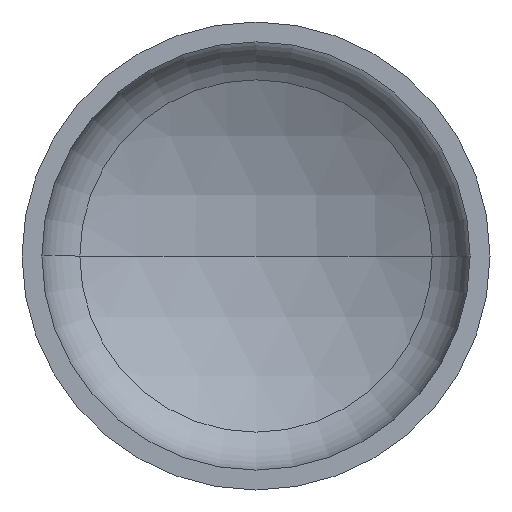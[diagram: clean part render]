
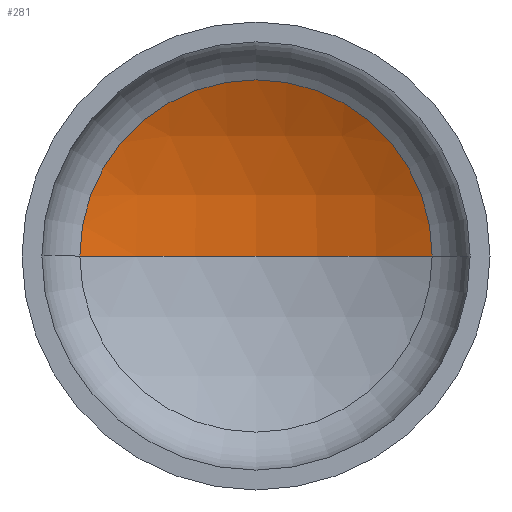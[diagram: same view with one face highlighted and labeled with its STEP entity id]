
A CAD part, front view. The second image highlights one B-rep face of the part: STEP entity #281.
In plain terms, the highlighted spherical face has radius 1280 mm.
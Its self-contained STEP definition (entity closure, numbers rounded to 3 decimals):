
#5 = AXIS2_PLACEMENT_3D ( 'NONE', #396, #160, #97 ) ;
#17 = AXIS2_PLACEMENT_3D ( 'NONE', #404, #249, #267 ) ;
#19 = AXIS2_PLACEMENT_3D ( 'NONE', #226, #171, #28 ) ;
#22 = AXIS2_PLACEMENT_3D ( 'NONE', #181, #183, #191 ) ;
#28 = DIRECTION ( 'NONE',  ( -1., 0., 0. ) ) ;
#46 = SPHERICAL_SURFACE ( 'NONE', #5, 1280. ) ;
#69 = EDGE_CURVE ( 'NONE', #145, #70, #218, .T. ) ;
#70 = VERTEX_POINT ( 'NONE', #326 ) ;
#73 = EDGE_CURVE ( 'NONE', #132, #145, #387, .T. ) ;
#74 = EDGE_CURVE ( 'NONE', #132, #70, #264, .T. ) ;
#97 = DIRECTION ( 'NONE',  ( -1., 0., 0. ) ) ;
#114 = ORIENTED_EDGE ( 'NONE', *, *, #69, .T. ) ;
#126 = EDGE_LOOP ( 'NONE', ( #169, #406, #114 ) ) ;
#132 = VERTEX_POINT ( 'NONE', #196 ) ;
#145 = VERTEX_POINT ( 'NONE', #201 ) ;
#160 = DIRECTION ( 'NONE',  ( 0., 0., -1. ) ) ;
#169 = ORIENTED_EDGE ( 'NONE', *, *, #74, .F. ) ;
#171 = DIRECTION ( 'NONE',  ( 0., 0., -1. ) ) ;
#181 = CARTESIAN_POINT ( 'NONE',  ( 0., 336.184, 0. ) ) ;
#183 = DIRECTION ( 'NONE',  ( 0., -1., 0. ) ) ;
#191 = DIRECTION ( 'NONE',  ( 1., 0., 0. ) ) ;
#196 = CARTESIAN_POINT ( 'NONE',  ( 0., 486.733, 0. ) ) ;
#201 = CARTESIAN_POINT ( 'NONE',  ( 602.28, 336.184, 0. ) ) ;
#218 = CIRCLE ( 'NONE', #22, 602.28 ) ;
#226 = CARTESIAN_POINT ( 'NONE',  ( 0., -793.267, 0. ) ) ;
#249 = DIRECTION ( 'NONE',  ( 0., 0., 1. ) ) ;
#264 = CIRCLE ( 'NONE', #17, 1280. ) ;
#267 = DIRECTION ( 'NONE',  ( 1., 0., 0. ) ) ;
#281 = ADVANCED_FACE ( 'NONE', ( #305 ), #46, .F. ) ;
#305 = FACE_OUTER_BOUND ( 'NONE', #126, .T. ) ;
#326 = CARTESIAN_POINT ( 'NONE',  ( -602.28, 336.184, 0. ) ) ;
#387 = CIRCLE ( 'NONE', #19, 1280. ) ;
#396 = CARTESIAN_POINT ( 'NONE',  ( 0., -793.267, 0. ) ) ;
#404 = CARTESIAN_POINT ( 'NONE',  ( 0., -793.267, 0. ) ) ;
#406 = ORIENTED_EDGE ( 'NONE', *, *, #73, .T. ) ;
